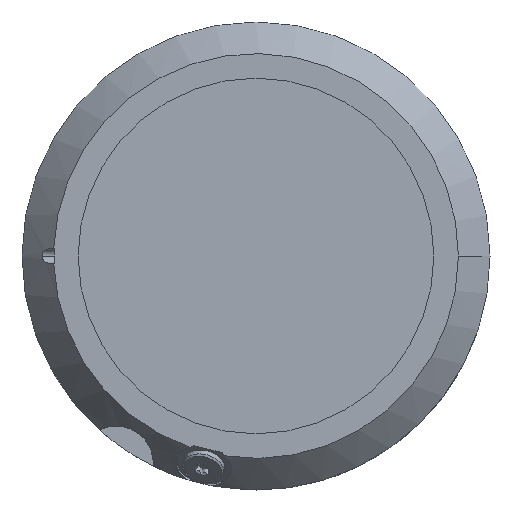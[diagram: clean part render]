
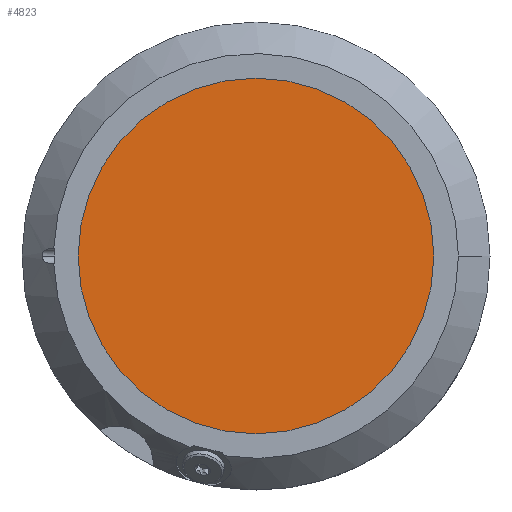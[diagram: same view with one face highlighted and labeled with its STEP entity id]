
A CAD part, left-side view. The second image highlights one B-rep face of the part: STEP entity #4823.
In plain terms, the highlighted planar face has unit normal (-1, 0, 0).
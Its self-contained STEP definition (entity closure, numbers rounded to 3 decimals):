
#133 = DIRECTION ( 'NONE',  ( 0., 1., 0. ) ) ;
#490 = CARTESIAN_POINT ( 'NONE',  ( 2070., 0., 2266. ) ) ;
#520 = AXIS2_PLACEMENT_3D ( 'NONE', #4900, #3748, #133 ) ;
#524 = AXIS2_PLACEMENT_3D ( 'NONE', #2383, #6404, #4382 ) ;
#1811 = EDGE_CURVE ( 'NONE', #4010, #6146, #4388, .T. ) ;
#2383 = CARTESIAN_POINT ( 'NONE',  ( 2070., 0., 2342. ) ) ;
#2555 = DIRECTION ( 'NONE',  ( 1., 0., 0. ) ) ;
#2987 = CARTESIAN_POINT ( 'NONE',  ( 2070., 76., 2266. ) ) ;
#3088 = CARTESIAN_POINT ( 'NONE',  ( 2070., -76., 2266. ) ) ;
#3623 = AXIS2_PLACEMENT_3D ( 'NONE', #490, #2555, #4014 ) ;
#3748 = DIRECTION ( 'NONE',  ( 1., 0., 0. ) ) ;
#3842 = PLANE ( 'NONE',  #524 ) ;
#4010 = VERTEX_POINT ( 'NONE', #3088 ) ;
#4014 = DIRECTION ( 'NONE',  ( 0., 1., 0. ) ) ;
#4382 = DIRECTION ( 'NONE',  ( 0., 0., 1. ) ) ;
#4388 = CIRCLE ( 'NONE', #3623, 76. ) ;
#4515 = CIRCLE ( 'NONE', #520, 76. ) ;
#4549 = EDGE_CURVE ( 'NONE', #6146, #4010, #4515, .T. ) ;
#4766 = EDGE_LOOP ( 'NONE', ( #6625, #4849 ) ) ;
#4823 = ADVANCED_FACE ( 'NONE', ( #5345 ), #3842, .T. ) ;
#4849 = ORIENTED_EDGE ( 'NONE', *, *, #1811, .F. ) ;
#4900 = CARTESIAN_POINT ( 'NONE',  ( 2070., 0., 2266. ) ) ;
#5345 = FACE_OUTER_BOUND ( 'NONE', #4766, .T. ) ;
#6146 = VERTEX_POINT ( 'NONE', #2987 ) ;
#6404 = DIRECTION ( 'NONE',  ( -1., 0., 0. ) ) ;
#6625 = ORIENTED_EDGE ( 'NONE', *, *, #4549, .F. ) ;
